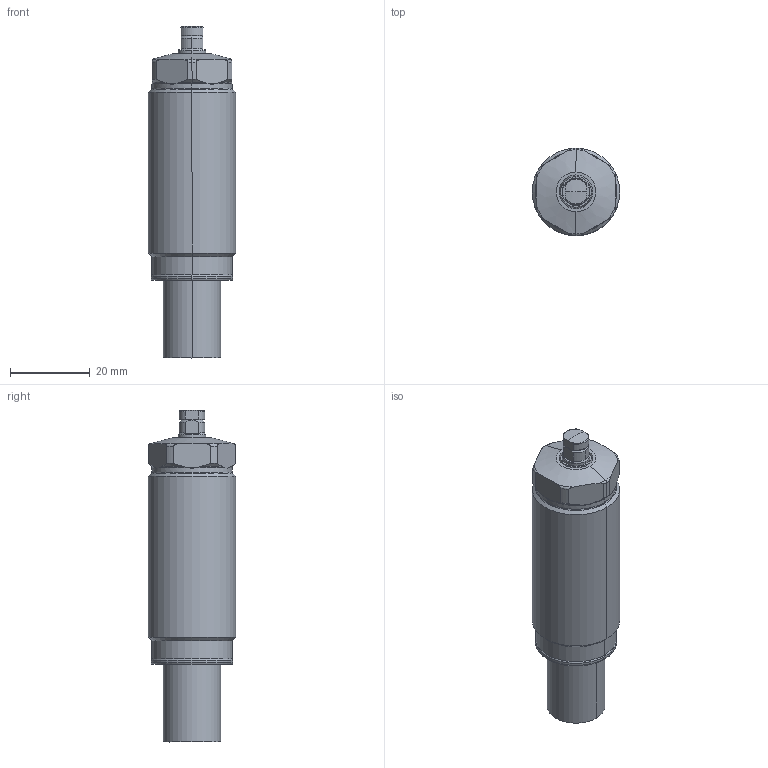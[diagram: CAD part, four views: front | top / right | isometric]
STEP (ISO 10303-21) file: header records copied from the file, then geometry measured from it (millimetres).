
FILE_DESCRIPTION(/* description */ (''),/* implementation_level */ '2;1');
FILE_NAME(/* name */ 'TSC22-Q.stp',/* time_stamp */ '2022-11-16T15:20:03+08:00',/* author */ (''),/* organization */ (''),/* preprocessor_version */ 'ST-DEVELOPER v16.7',/* originating_system */ 'SIEMENS PLM Software NX 12.0',/* authorisation */ '');
FILE_SCHEMA (('AP203_CONFIGURATION_CONTROLLED_3D_DESIGN_OF_MECHANICAL_PARTS_AND_ASSEMBLIES_MIM_LF { 1 0 10303 403 2 1 2}'));
Length unit declared in the file: millimetre
Products named in the file (6): TSC22-Q-01; TSC22-Q-02; TSC22-Q-03; TSC22-Q-04; TSC22-Q-05; LD0222-Q_step
Assembly tree (5 placements, depth 2):
  LD0222-Q_step
    TSC22-Q-05
    TSC22-Q-04
    TSC22-Q-03
    TSC22-Q-02
    TSC22-Q-01
Bounding box: 22 x 22 x 83.5 mm (x, y, z)
Volume: 24270.8 mm3; surface area: 6838.4 mm2
Topology: 5 solids, 5 shells, 131 faces, 308 edges, 191 vertices
Faces by surface type: torus 38, cylinder 38, plane 33, cone 20, sphere 2
Entity records: 4995 total; most frequent: CARTESIAN_POINT 1278, DIRECTION 690, ORIENTED_EDGE 612, EDGE_CURVE 306, AXIS2_PLACEMENT_3D 303, VERTEX_POINT 191, CIRCLE 160, EDGE_LOOP 141
